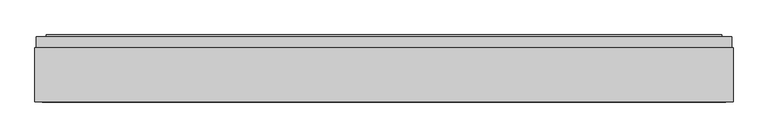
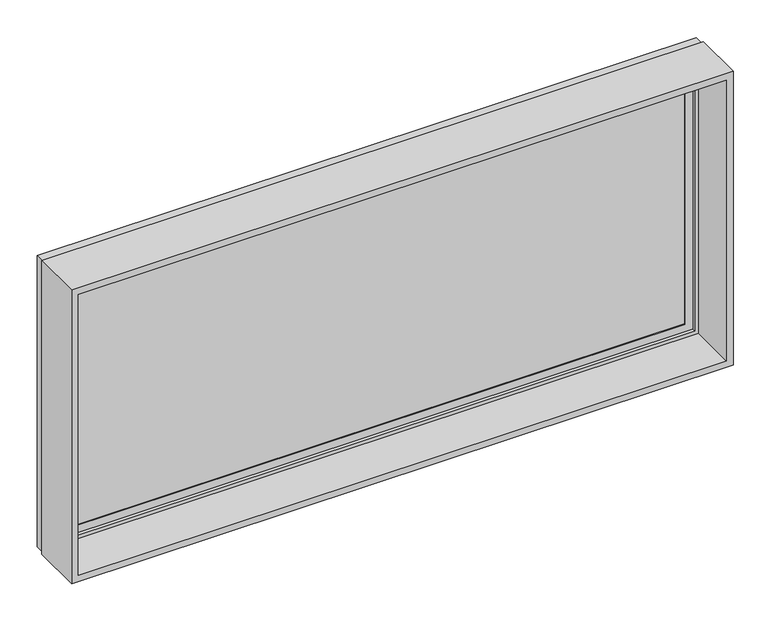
"""IFC4 building model written with IfcOpenShell, lengths in millimetres: plate geometry, SCISSOR PANEL : SCISSOR PANEL."""

import ifcopenshell
import ifcopenshell.guid

model = None  # the IFC model being written
_history = None  # IfcOwnerHistory: only IFC2X3 demands one
_inside = {}  # id of a spatial element -> (the spatial element, [elements in it])
_under = {}  # id of a project, library or spatial element -> (it, [spatial elements below it])
_declared = {}  # id of a project -> (the project, [libraries it declares])
_typed = {}  # id of a type object -> (the type object, [elements of that type])
_made_of = {}  # id of a material, layer set ... -> (it, [elements and type objects made of it])


def new_model(schema):
    """Start an empty IFC model of exactly this schema.

    Asked for "IFC4X3", IfcOpenShell would pick the latest addendum, in which some entities
    have other attributes; the version numbers below select the first issue.
    IFC2X3 requires an IfcOwnerHistory on every rooted entity: one is made here for all.
    """
    global model, _history
    if schema == "IFC4X3":
        model = ifcopenshell.file(schema_version=(4, 3, 0, 0))
    else:
        model = ifcopenshell.file(schema=schema)
    _inside.clear()
    _under.clear()
    _declared.clear()
    _typed.clear()
    _made_of.clear()
    _history = None
    if model.schema == "IFC2X3":
        org = make("IfcOrganization", Name="unknown")
        user = make(
            "IfcPersonAndOrganization",
            ThePerson=make("IfcPerson", FamilyName="unknown"),
            TheOrganization=org,
        )
        app = make(
            "IfcApplication",
            ApplicationDeveloper=org,
            Version="unknown",
            ApplicationFullName="unknown",
            ApplicationIdentifier="unknown",
        )
        _history = make(
            "IfcOwnerHistory",
            OwningUser=user,
            OwningApplication=app,
            ChangeAction="ADDED",
            CreationDate=0,
        )
    return model


def make(cls, **values):
    """One entity of the class cls with the attributes given. An attribute that is None is left unset."""
    return model.create_entity(
        cls, **{name: value for name, value in values.items() if value is not None}
    )


def rooted(cls, **values):
    """An entity with a GlobalId (a new one), such as an element, a storey or a relation."""
    return make(cls, GlobalId=ifcopenshell.guid.new(), OwnerHistory=_history, **values)


def si_unit(unit_type, name, prefix=None):
    """IfcSIUnit, for example si_unit("LENGTHUNIT", "METRE", prefix="MILLI")."""
    return make("IfcSIUnit", UnitType=unit_type, Prefix=prefix, Name=name)


def assignment(units):
    """IfcUnitAssignment: the units of a project."""
    return None if units is None else make("IfcUnitAssignment", Units=units)


def point(xyz):
    """IfcCartesianPoint."""
    return None if xyz is None else make("IfcCartesianPoint", Coordinates=xyz)


def direction(xyz):
    """IfcDirection."""
    return None if xyz is None else make("IfcDirection", DirectionRatios=xyz)


def frame(location, z_axis=None, x_axis=None):
    """IfcAxis2Placement3D, a coordinate frame: its origin and axes. An axis left out is left unset."""
    return make(
        "IfcAxis2Placement3D",
        Location=point(location),
        Axis=direction(z_axis),
        RefDirection=direction(x_axis),
    )


def origin():
    """The frame at (0, 0, 0) with its axes left unset."""
    return frame((0.0, 0.0, 0.0))


def place(relative_to, where):
    """IfcLocalPlacement: puts the frame where relative to a parent placement (None: the world)."""
    return make(
        "IfcLocalPlacement", PlacementRelTo=relative_to, RelativePlacement=where
    )


def context(
    kind, dimensions, precision=None, world=None, true_north=None, identifier=None
):
    """IfcGeometricRepresentationContext, for example the 3D "Model" context."""
    return make(
        "IfcGeometricRepresentationContext",
        ContextIdentifier=identifier,
        ContextType=kind,
        CoordinateSpaceDimension=dimensions,
        Precision=precision,
        WorldCoordinateSystem=world,
        TrueNorth=true_north,
    )


def project(units=None, contexts=None):
    """IfcProject with its units and contexts."""
    return rooted(
        "IfcProject",
        Name="project",
        RepresentationContexts=contexts,
        UnitsInContext=assignment(units),
    )


def spatial(cls, under=None, at=None, **own):
    """A site, building, storey or space (cls), placed at a placement, below another one or the project."""
    s = rooted(cls, ObjectPlacement=at, **own)
    if under is not None:
        _under.setdefault(under.id(), (under, []))[1].append(s)
    return s


def polyline(points):
    """IfcPolyline through the points."""
    return make("IfcPolyline", Points=[point(p) for p in points])


def outline(outer, holes=None, kind="AREA"):
    """IfcArbitraryClosedProfileDef: a profile drawn as a closed curve; with holes, ...WithVoids."""
    if holes is None:
        return make("IfcArbitraryClosedProfileDef", ProfileType=kind, OuterCurve=outer)
    return make(
        "IfcArbitraryProfileDefWithVoids",
        ProfileType=kind,
        OuterCurve=outer,
        InnerCurves=holes,
    )


def extrude(swept, where, along, depth):
    """IfcExtrudedAreaSolid: the profile swept, set in the frame where, extruded along a direction by depth."""
    return make(
        "IfcExtrudedAreaSolid",
        SweptArea=swept,
        Position=where,
        ExtrudedDirection=direction(along),
        Depth=depth,
    )


def faces_of(points, faces, orient=None, outer=None):
    """IfcFace entities. A face is a list of loops; a loop is a list of indices into points, from 0.

    orient and outer hold one flag for each loop. By default every Orientation is true, the
    first loop of a face is its IfcFaceOuterBound and the others are IfcFaceBound.
    """
    made = []
    for i, loops in enumerate(faces):
        bounds = []
        for j, loop in enumerate(loops):
            is_outer = j == 0 if outer is None else outer[i][j]
            bounds.append(
                make(
                    "IfcFaceOuterBound" if is_outer else "IfcFaceBound",
                    Bound=make("IfcPolyLoop", Polygon=[points[k] for k in loop]),
                    Orientation=True if orient is None else orient[i][j],
                )
            )
        made.append(make("IfcFace", Bounds=bounds))
    return made


def faceted_brep(points, faces, orient=None, outer=None, voids=None):
    """IfcFacetedBrep: a solid bounded by flat faces; with voids (closed shells), ...WithVoids."""
    shared = [point(p) for p in points]
    hull = make("IfcClosedShell", CfsFaces=faces_of(shared, faces, orient, outer))
    if voids is None:
        return make("IfcFacetedBrep", Outer=hull)
    return make(
        "IfcFacetedBrepWithVoids",
        Outer=hull,
        Voids=[
            make(cls, CfsFaces=faces_of(shared, fs, o, b)) for cls, fs, o, b in voids
        ],
    )


def shape(context_of_items, identifier, shape_type, items):
    """IfcShapeRepresentation: the items that make up one representation, for example the "Body"."""
    return make(
        "IfcShapeRepresentation",
        ContextOfItems=context_of_items,
        RepresentationIdentifier=identifier,
        RepresentationType=shape_type,
        Items=items,
    )


def source(mapping_origin, context_of_items, identifier, shape_type, items):
    """IfcRepresentationMap: a shape defined once, which mapped items show again and again."""
    return make(
        "IfcRepresentationMap",
        MappingOrigin=mapping_origin,
        MappedRepresentation=shape(context_of_items, identifier, shape_type, items),
    )


def transform(
    local_origin,
    x_axis=None,
    y_axis=None,
    z_axis=None,
    scale=None,
    scale2=None,
    scale3=None,
    uniform=True,
):
    """IfcCartesianTransformationOperator3D, or its non-uniform kind. x_axis, y_axis, z_axis: its Axis1, 2, 3."""
    if uniform:
        return make(
            "IfcCartesianTransformationOperator3D",
            Axis1=direction(x_axis),
            Axis2=direction(y_axis),
            LocalOrigin=point(local_origin),
            Scale=scale,
            Axis3=direction(z_axis),
        )
    return make(
        "IfcCartesianTransformationOperator3DnonUniform",
        Axis1=direction(x_axis),
        Axis2=direction(y_axis),
        LocalOrigin=point(local_origin),
        Scale=scale,
        Axis3=direction(z_axis),
        Scale2=scale2,
        Scale3=scale3,
    )


def mapped(mapping_source, mapping_target):
    """IfcMappedItem: shows the shape of a source again, moved by a transform."""
    return make(
        "IfcMappedItem", MappingSource=mapping_source, MappingTarget=mapping_target
    )


def made_of(thing, what):
    """Note that an element or type object is made of a material, layer set ...; save() writes the relation."""
    if what is not None:
        _made_of.setdefault(what.id(), (what, []))[1].append(thing)
    return thing


def element(
    cls,
    number,
    at=None,
    inside=None,
    cuts=None,
    type_object=None,
    material=None,
    context=None,
    identifier="Body",
    shape_type=None,
    held_by="IfcProductDefinitionShape",
    body=None,
    shapes=None,
    **own,
):
    """One element of the class cls, such as IfcWall. Its Tag is "e" and its number.

    at: its placement. inside: the storey or other place that contains it. cuts: it is an
    opening in that element (IfcRelVoidsElement). A single representation is given by context,
    identifier, shape_type and body (its items); several are given by shapes. held_by: the class
    of the entity that holds the representations. save() writes the other relations.
    """
    e = rooted(cls, Tag="e%d" % number, ObjectPlacement=at, **own)
    if body is not None:
        shapes = [shape(context, identifier, shape_type, body)]
    if shapes is not None:
        e.Representation = make(held_by, Representations=shapes)
    if inside is not None:
        _inside.setdefault(inside.id(), (inside, []))[1].append(e)
    if cuts is not None:
        rooted(
            "IfcRelVoidsElement", RelatingBuildingElement=cuts, RelatedOpeningElement=e
        )
    if type_object is not None:
        _typed.setdefault(type_object.id(), (type_object, []))[1].append(e)
    return made_of(e, material)


def aggregate(whole, parts):
    """IfcRelAggregates: a whole, such as a stair, and the parts it consists of."""
    return rooted("IfcRelAggregates", RelatingObject=whole, RelatedObjects=parts)


def save(model, path):
    """Write the relations noted so far, then the file.

    IfcRelAggregates (storeys below a building ...), IfcRelContainedInSpatialStructure (elements
    in a storey), IfcRelDefinesByType, IfcRelAssociatesMaterial and IfcRelDeclares: one each for
    every whole, place, type object, material and project.
    """
    for whole, parts in _under.values():
        aggregate(whole, parts)
    for where, things in _inside.values():
        rooted(
            "IfcRelContainedInSpatialStructure",
            RelatedElements=things,
            RelatingStructure=where,
        )
    for kind, things in _typed.values():
        rooted("IfcRelDefinesByType", RelatedObjects=things, RelatingType=kind)
    for what, things in _made_of.values():
        rooted("IfcRelAssociatesMaterial", RelatedObjects=things, RelatingMaterial=what)
    for by, libraries in _declared.values():
        rooted("IfcRelDeclares", RelatingContext=by, RelatedDefinitions=libraries)
    model.write(path)


def plate_5cd8ab1a(model_context):
    return source(origin(), model_context, "Body", "SolidModel", [
        extrude(outline(polyline([(800.0, -851.0951718), (0.0, -851.0951718), (0.0, 851.0951718), (800.0, 851.0951718), (800.0, -851.0951718)]), holes=[polyline([(17.5, -833.5951718), (782.5, -833.5951718), (782.5, 833.5951718), (17.5, 833.5951718), (17.5, -833.5951718)])]), frame((0.0, 0.0, 0.0), z_axis=(0.0, 1.0, 0.0), x_axis=(0.0, 0.0, 1.0)), (0.0, 0.0, 1.0), 132.5),
        extrude(outline(polyline([(-820.5951718, 160.5), (820.5951718, 160.5), (820.5951718, 135.5), (-820.5951718, 135.5), (-820.5951718, 160.5)])), frame((0.0, 0.0, 30.5), z_axis=(0.0, 0.0, 1.0), x_axis=(1.0, 0.0, 0.0)), (0.0, 0.0, 1.0), 739.0),
        faceted_brep([(-803.5951718, 135.5, 752.5), (-803.5951718, 132.5, 752.5), (-803.5951718, 132.5, 47.5), (-803.5951718, 135.5, 47.5), (-820.5951718, 160.5, 769.5), (-820.5951718, 135.5, 769.5), (-820.5951718, 135.5, 30.5), (-820.5951718, 160.5, 30.5), (-803.5951718, 163.5, 752.5), (-803.5951718, 160.5, 752.5), (-803.5951718, 160.5, 47.5), (-803.5951718, 163.5, 47.5), (-823.5951718, 132.5, 772.5), (-823.5951718, 163.5, 772.5), (-823.5951718, 163.5, 27.5), (-823.5951718, 132.5, 27.5), (803.5951718, 132.5, 47.5), (803.5951718, 135.5, 47.5), (820.5951718, 135.5, 30.5), (820.5951718, 160.5, 30.5), (803.5951718, 160.5, 47.5), (803.5951718, 163.5, 47.5), (823.5951718, 163.5, 27.5), (823.5951718, 132.5, 27.5), (803.5951718, 132.5, 752.5), (803.5951718, 135.5, 752.5), (820.5951718, 135.5, 769.5), (820.5951718, 160.5, 769.5), (803.5951718, 160.5, 752.5), (803.5951718, 163.5, 752.5), (823.5951718, 163.5, 772.5), (823.5951718, 132.5, 772.5)], [[[0, 1, 2, 3]], [[4, 5, 6, 7]], [[8, 9, 10, 11]], [[12, 13, 14, 15]], [[3, 2, 16, 17]], [[7, 6, 18, 19]], [[11, 10, 20, 21]], [[15, 14, 22, 23]], [[17, 16, 24, 25]], [[19, 18, 26, 27]], [[21, 20, 28, 29]], [[23, 22, 30, 31]], [[15, 23, 31, 12], [1, 24, 16, 2]], [[25, 24, 1, 0]], [[5, 26, 18, 6], [3, 17, 25, 0]], [[27, 26, 5, 4]], [[7, 19, 27, 4], [9, 28, 20, 10]], [[29, 28, 9, 8]], [[13, 30, 22, 14], [11, 21, 29, 8]], [[31, 30, 13, 12]]]),
        faceted_brep([(-847.5951718, 132.5, 796.5), (-847.5951718, 158.75, 796.5), (-847.5951718, 158.75, 3.5), (-847.5951718, 132.5, 3.5), (-840.5951718, 150.0, 789.5), (-840.5951718, 132.5, 789.5), (-840.5951718, 132.5, 10.5), (-840.5951718, 150.0, 10.5), (-833.5951718, 123.75, 782.5), (-833.5951718, 150.0, 782.5), (-833.5951718, 150.0, 17.5), (-833.5951718, 123.75, 17.5), (-823.5951718, 158.75, 772.5), (-823.5951718, 123.75, 772.5), (-823.5951718, 123.75, 27.5), (-823.5951718, 158.75, 27.5), (847.5951718, 158.75, 3.5), (847.5951718, 132.5, 3.5), (840.5951718, 132.5, 10.5), (840.5951718, 150.0, 10.5), (833.5951718, 150.0, 17.5), (833.5951718, 123.75, 17.5), (823.5951718, 123.75, 27.5), (823.5951718, 158.75, 27.5), (847.5951718, 158.75, 796.5), (847.5951718, 132.5, 796.5), (840.5951718, 132.5, 789.5), (840.5951718, 150.0, 789.5), (833.5951718, 150.0, 782.5), (833.5951718, 123.75, 782.5), (823.5951718, 123.75, 772.5), (823.5951718, 158.75, 772.5)], [[[0, 1, 2, 3]], [[4, 5, 6, 7]], [[8, 9, 10, 11]], [[12, 13, 14, 15]], [[3, 2, 16, 17]], [[7, 6, 18, 19]], [[11, 10, 20, 21]], [[15, 14, 22, 23]], [[17, 16, 24, 25]], [[19, 18, 26, 27]], [[21, 20, 28, 29]], [[23, 22, 30, 31]], [[25, 24, 1, 0]], [[3, 17, 25, 0], [5, 26, 18, 6]], [[27, 26, 5, 4]], [[7, 19, 27, 4], [9, 28, 20, 10]], [[29, 28, 9, 8]], [[11, 21, 29, 8], [13, 30, 22, 14]], [[31, 30, 13, 12]], [[1, 24, 16, 2], [15, 23, 31, 12]]]),
        extrude(outline(polyline([(789.5, -840.5951718), (10.5, -840.5951718), (10.5, 840.5951718), (789.5, 840.5951718), (789.5, -840.5951718)]), holes=[polyline([(782.5, -833.5951718), (782.5, 833.5951718), (17.5, 833.5951718), (17.5, -833.5951718), (782.5, -833.5951718)])]), frame((0.0, 132.5, 0.0), z_axis=(0.0, 1.0, 0.0), x_axis=(0.0, 0.0, 1.0)), (0.0, 0.0, 1.0), 17.5),
    ])


if __name__ == "__main__":
    model = new_model("IFC4")
    model_context = context("Model", 3, world=origin())
    ifc_project = project(units=[si_unit("LENGTHUNIT", "METRE", prefix="MILLI")], contexts=[model_context])
    site = spatial("IfcSite", under=ifc_project)
    building = spatial("IfcBuilding", under=site)
    placement = place(None, origin())
    plate_shape = plate_5cd8ab1a(model_context)
    element("IfcPlate", 1, ObjectType="SCISSOR PANEL : SCISSOR PANEL", at=placement, inside=building, context=model_context, shape_type="MappedRepresentation", body=[
        mapped(plate_shape, transform((0.0, 0.0, 0.0), x_axis=(1.0, 0.0, 0.0), y_axis=(0.0, 1.0, 0.0), z_axis=(0.0, 0.0, 1.0))),
    ])
    save(model, "model.ifc")
